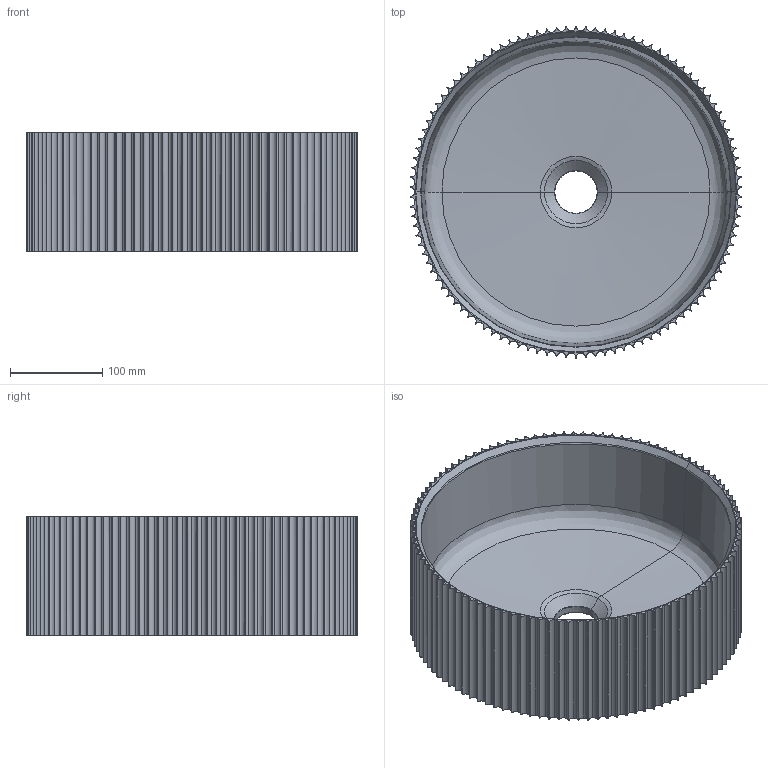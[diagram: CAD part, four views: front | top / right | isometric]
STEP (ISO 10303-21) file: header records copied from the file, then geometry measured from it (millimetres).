
FILE_DESCRIPTION(/* description */ (''),/* implementation_level */ '2;1');
FILE_NAME(/* name */ '00634_00635_Mappi C',/* time_stamp */ '2024-10-17T14:45:33+02:00',/* author */ (''),/* organization */ (''),/* preprocessor_version */ 'ST-DEVELOPER v19.2',/* originating_system */ 'Rhino 8.12',/* authorisation */ '');
FILE_SCHEMA (('CONFIG_CONTROL_DESIGN'));
Length unit declared in the file: millimetre
Products named in the file (1): Document
Bounding box: 359.86 x 360 x 129.71 mm (x, y, z)
Volume: 2129982.7 mm3; surface area: 524362.3 mm2
Topology: 1 solids, 1 shells, 470 faces, 1362 edges, 892 vertices
Faces by surface type: cylinder 320, bspline 144, plane 6
Entity records: 23793 total; most frequent: CARTESIAN_POINT 12066, ORIENTED_EDGE 2724, DIRECTION 1942, EDGE_CURVE 1362, AXIS2_PLACEMENT_3D 1134, VERTEX_POINT 892, TRIMMED_CURVE 806, CIRCLE 806
